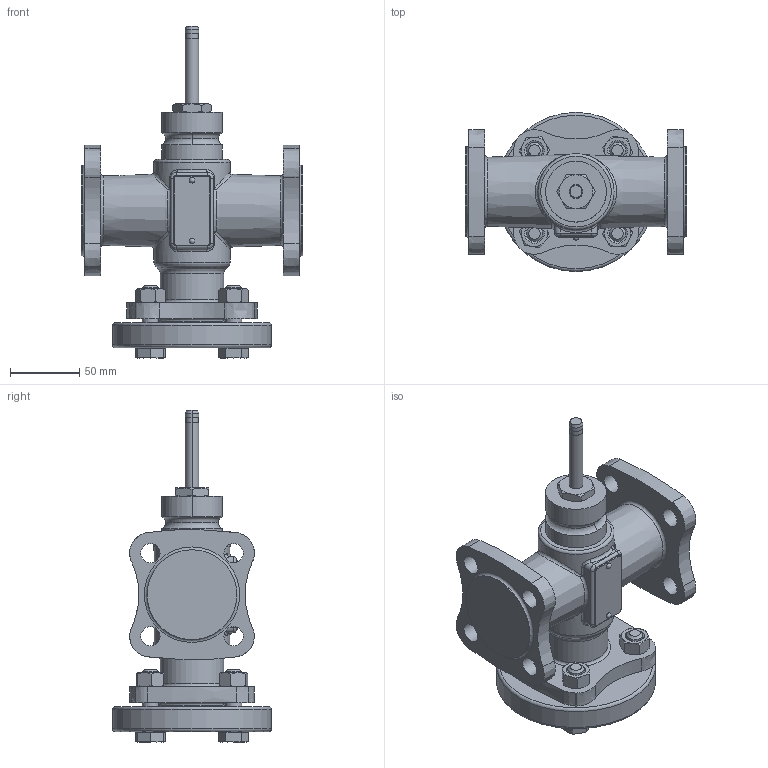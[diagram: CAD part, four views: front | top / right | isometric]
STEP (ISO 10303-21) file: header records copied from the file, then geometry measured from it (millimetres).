
FILE_DESCRIPTION(/* description */ ('Step214'),/* implementation_level */ '2;1');
FILE_NAME(/* name */ 'VVF32_42 DN25.stp',/* time_stamp */ '2015-11-10T13:08:04+01:00',/* author */ (''),/* organization */ ('Siemens'),/* preprocessor_version */ 'ST-DEVELOPER v15',/* originating_system */ 'SIEMENS PLM Software NX 8.5',/* authorisation */ 'for Duktil only');
FILE_SCHEMA (('AUTOMOTIVE_DESIGN { 1 0 10303 214 3 1 1 1 }'));
Length unit declared in the file: millimetre
Products named in the file (1): Volc19F47525lfat
Bounding box: 160 x 115 x 240 mm (x, y, z)
Volume: 952926.4 mm3; surface area: 126224.2 mm2
Topology: 1 solids, 1 shells, 336 faces, 792 edges, 489 vertices
Faces by surface type: plane 104, cone 92, cylinder 67, extrusion 31, torus 23, bspline 13, sphere 6
Full cylindrical faces by diameter (mm): 11.701 x8, 14 x16, 16.6 x4, 46 x1, 55 x1, 65 x2, 68 x1, 115 x1
Entity records: 12506 total; most frequent: CARTESIAN_POINT 4396, ORIENTED_EDGE 1392, DIRECTION 1353, EDGE_CURVE 696, AXIS2_PLACEMENT_3D 575, VERTEX_POINT 456, EDGE_LOOP 454, ADVANCED_FACE 336
